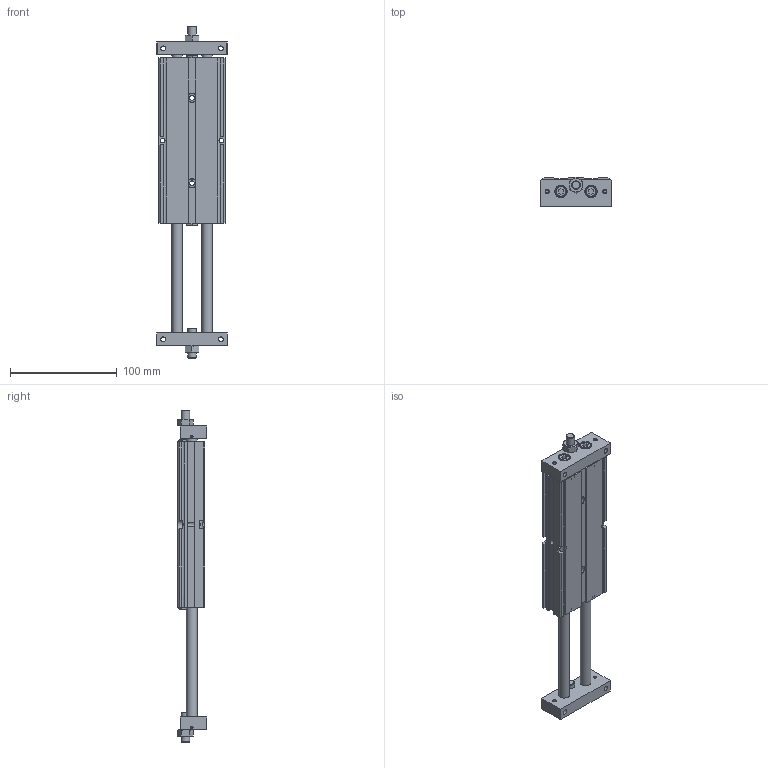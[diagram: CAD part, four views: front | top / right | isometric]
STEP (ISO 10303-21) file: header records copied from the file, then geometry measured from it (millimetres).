
FILE_DESCRIPTION((''),'2;1');
FILE_NAME('I:\3D電子目錄\氣缸\STU\STU\STU20\STU20x100.stp','2007-10-01T10:20:35',('Administrator'),(''),'Autodesk Inventor 11','Autodesk Inventor 11','');
FILE_SCHEMA(('AUTOMOTIVE_DESIGN { 1 0 10303 214 1 1 1 1 }'));
Length unit declared in the file: millimetre
Products named in the file (1): STU20
Bounding box: 66 x 27.51 x 311.5 mm (x, y, z)
Volume: 264717.7 mm3; surface area: 64679.3 mm2
Topology: 1 solids, 1 shells, 345 faces, 855 edges, 543 vertices
Faces by surface type: plane 166, cone 75, bspline 71, cylinder 29, torus 4
Full cylindrical faces by diameter (mm): 2.459 x2, 8 x6, 10 x6, 11 x4, 22 x2, 23.2 x2
Entity records: 10978 total; most frequent: CARTESIAN_POINT 3643, ORIENTED_EDGE 1470, DIRECTION 1388, EDGE_CURVE 735, EDGE_LOOP 520, VERTEX_POINT 519, AXIS2_PLACEMENT_3D 510, VECTOR 368
